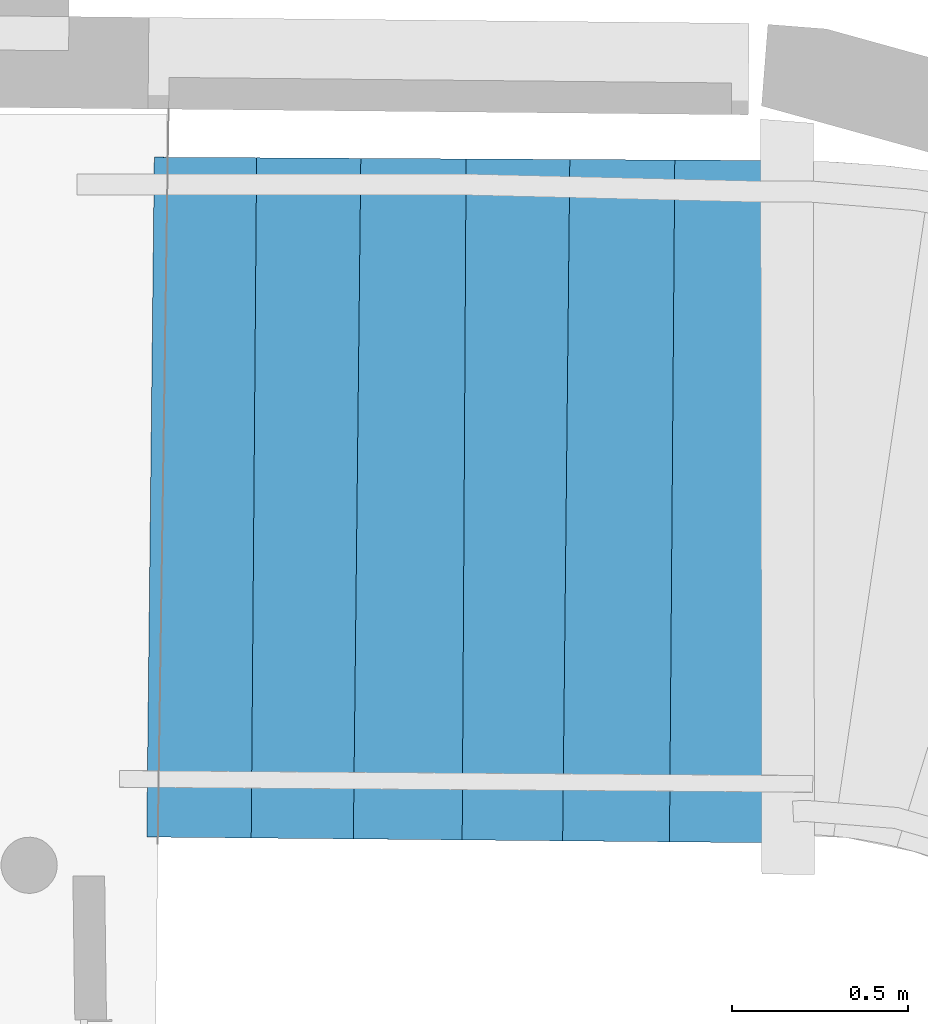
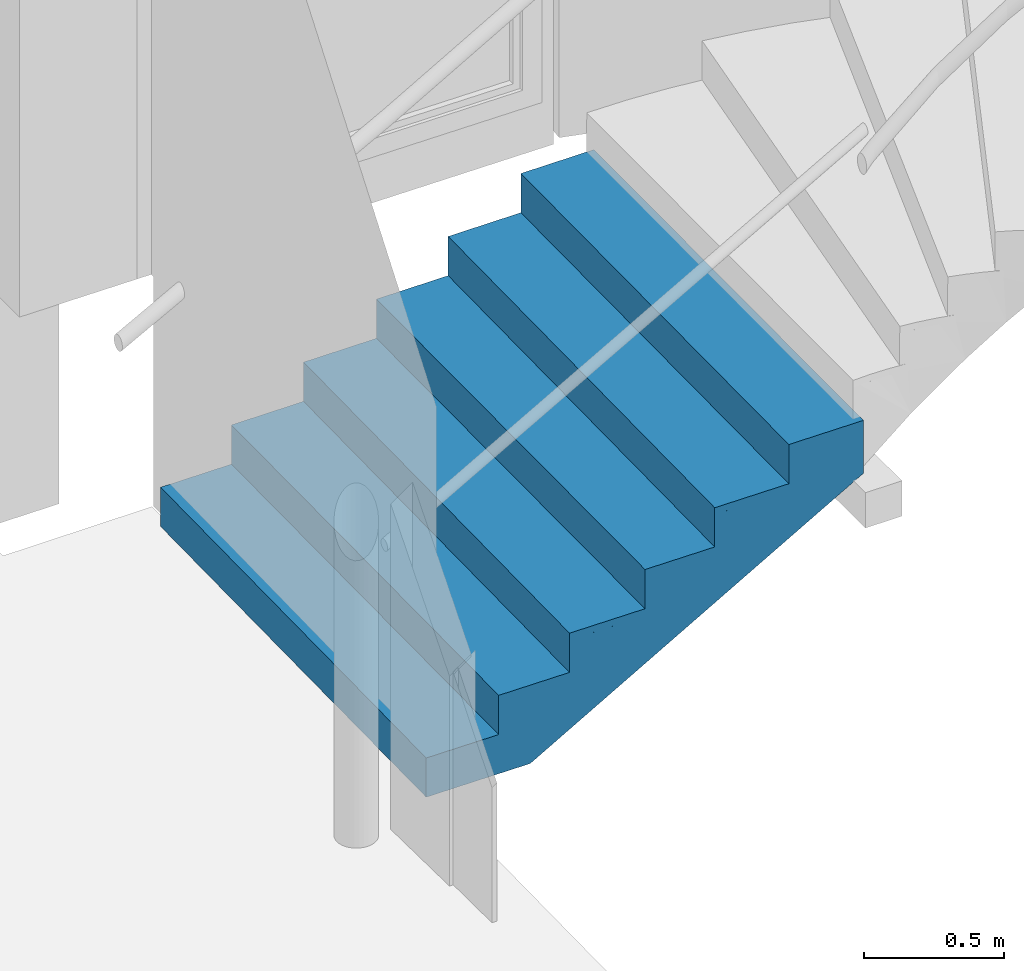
# One storey, part 77 of 97: 1 stair flight, 1 element without a shape of its own.
"""IFC2X3 building model written with IfcOpenShell, lengths in centimetres."""

from ifc_helpers import new_model, entity, si_unit, converted_unit, direction, frame, origin, origin_with_axes, place, context, subcontext, project, spatial, faceted_brep, material, material_list, element, aggregate, save


model = new_model("IFC2X3")

# Units and contexts
model_context = context("Model", 3, precision=0.0001, world=origin(), true_north=direction((0.225632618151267, 0.974212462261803, 0.0)))
body_context = subcontext(model_context, "Body", "Model", "MODEL_VIEW")
ifc_project = project(units=[si_unit("LENGTHUNIT", "METRE", prefix="CENTI"), si_unit("AREAUNIT", "SQUARE_METRE", prefix="CENTI"), si_unit("VOLUMEUNIT", "CUBIC_METRE", prefix="CENTI"), converted_unit("PLANEANGLEUNIT", "DEGREE", entity("IfcRatioMeasure", 0.0174532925), si_unit("PLANEANGLEUNIT", "RADIAN"), dimensions=[0, 0, 0, 0, 0, 0, 0])], contexts=[model_context])

# Site, building, storey
site_placement = place(None, origin_with_axes())
site = spatial("IfcSite", under=ifc_project, at=site_placement, Name="Default Site", CompositionType="ELEMENT")
building_placement = place(site_placement, origin_with_axes())
building = spatial("IfcBuilding", under=site, at=building_placement, Name="Default Building", CompositionType="ELEMENT")
storey_placement = place(building_placement, origin_with_axes())
storey = spatial("IfcBuildingStorey", under=building, at=storey_placement, Name="Rez-de-chaussée", CompositionType="ELEMENT", Elevation=0.0)

# Stair, stair flight
stair_placement = place(storey_placement, frame((1122.40148576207, -332.078331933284, 0.0), z_axis=(0.0, 0.0, 1.0), x_axis=(1.0, 0.0, 0.0)))
stair = element("IfcStair", 1, at=stair_placement, inside=storey, Name="Escalier 718692", ShapeType="NOTDEFINED")
ifc_material_1 = material(Name="Blanc")
ifc_material_2 = material(Name="Carreau décoré (85)")
ifc_material_list = material_list([ifc_material_1, ifc_material_2])
stair_flight_placement = place(stair_placement, frame((1.07416121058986, 96.5940179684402, 14.0641197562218), z_axis=(0.0, 0.0, 1.0), x_axis=(0.999938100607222, -0.0111263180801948, 0.0)))
stair_flight = element("IfcStairFlight", 2, at=stair_flight_placement, material=ifc_material_list, Name="4294967289", context=body_context, shape_type="Brep", body=[
    faceted_brep([(-2.99996825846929, 0.0, -14.0641197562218), (0.0, 0.0, -14.0641197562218), (0.0012625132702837, -193.199992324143, -14.0641197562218), (-2.99870574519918, -193.199992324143, -14.0641197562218), (0.0, 0.0, -2.77555756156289e-15), (-2.99996825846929, 0.0, -2.77555756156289e-15), (-2.99870574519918, -193.199992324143, -2.77555756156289e-15), (0.0012625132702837, -193.199992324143, -2.77555756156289e-15), (-2.99870573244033, -193.199992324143, -14.0641197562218), (-2.99996827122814, -8.33767412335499e-14, -2.77555756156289e-15), (-2.99996825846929, -1.18882677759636e-09, -14.0641197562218), (-4.71108020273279e-19, 1.18882677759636e-09, -2.77555756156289e-15), (-1.27586768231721e-08, -8.33755808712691e-14, -14.0641197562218), (0.00126252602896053, -193.199992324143, -2.77555756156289e-15), (0.0012625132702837, -193.199992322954, -14.0641197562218), (-2.99870574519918, -193.199992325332, -2.77555756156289e-15)], [[[0, 1, 2]], [[2, 3, 0]], [[4, 5, 6]], [[6, 7, 4]], [[5, 0, 8]], [[3, 6, 9]], [[4, 1, 10]], [[0, 5, 11]], [[7, 2, 12]], [[1, 4, 13]], [[6, 3, 14]], [[2, 7, 15]]]),
    faceted_brep([(26.0697969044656, 0.156746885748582, 3.00000011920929), (29.0697541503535, 0.166307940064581, 3.00000011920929), (29.6855947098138, -193.144417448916, 3.00000011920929), (26.6856377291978, -193.154002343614, 3.00000011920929), (29.0697541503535, 0.166307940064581, 17.0641198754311), (26.0697969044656, 0.156746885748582, 17.0641198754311), (26.6856377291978, -193.154002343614, 17.0641198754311), (29.6855947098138, -193.144417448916, 17.0641198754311), (26.6856377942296, -193.154002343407, 3.00000011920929), (26.0697968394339, 0.156746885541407, 17.0641198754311), (26.0697969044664, 0.156746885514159, 3.00000011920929), (29.0697541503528, 0.166307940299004, 17.0641198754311), (29.0697540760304, 0.166307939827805, 3.00000011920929), (29.6855947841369, -193.144417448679, 17.0641198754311), (29.6855947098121, -193.144417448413, 3.00000011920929), (26.6856377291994, -193.154002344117, 17.0641198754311)], [[[0, 1, 2]], [[2, 3, 0]], [[4, 5, 6]], [[6, 7, 4]], [[5, 0, 8]], [[3, 6, 9]], [[4, 1, 10]], [[0, 5, 11]], [[7, 2, 12]], [[1, 4, 13]], [[6, 3, 14]], [[2, 7, 15]]]),
    faceted_brep([(55.6793244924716, 0.335188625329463, 20.0641199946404), (58.6792871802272, 0.335689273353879, 20.0641199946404), (58.7120557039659, -193.09010650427, 20.0641199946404), (55.7120932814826, -193.090630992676, 20.0641199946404), (58.6792871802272, 0.335689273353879, 34.1282412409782), (55.6793244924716, 0.335188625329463, 34.1282412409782), (55.7120932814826, -193.090630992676, 34.1282412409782), (58.7120557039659, -193.09010650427, 34.1282412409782), (55.7120932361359, -193.090630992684, 20.0641199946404), (55.6793245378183, 0.335188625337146, 34.1282412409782), (55.6793244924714, 0.335188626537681, 20.0641199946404), (58.6792871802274, 0.33568927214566, 34.1282412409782), (58.6792871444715, 0.335689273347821, 20.0641199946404), (58.7120557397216, -193.090106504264, 34.1282412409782), (58.7120557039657, -193.090106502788, 20.0641199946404), (55.7120932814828, -193.090630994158, 34.1282412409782)], [[[0, 1, 2]], [[2, 3, 0]], [[4, 5, 6]], [[6, 7, 4]], [[5, 0, 8]], [[3, 6, 9]], [[4, 1, 10]], [[0, 5, 11]], [[7, 2, 12]], [[1, 4, 13]], [[6, 3, 14]], [[2, 7, 15]]]),
    faceted_brep([(85.5990691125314, 0.490830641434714, 37.1282413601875), (88.5989544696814, 0.50685243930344, 37.1282413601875), (89.6328774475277, -193.032218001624, 37.1282413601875), (86.632897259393, -193.048288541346, 37.1282413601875), (88.5989544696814, 0.50685243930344, 51.1923626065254), (85.5990691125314, 0.490830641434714, 51.1923626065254), (86.632897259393, -193.048288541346, 51.1923626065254), (89.6328774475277, -193.032218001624, 51.1923626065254), (86.6328972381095, -193.048288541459, 37.1282413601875), (85.5990691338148, 0.490830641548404, 51.1923626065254), (85.5990691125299, 0.490830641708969, 37.1282413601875), (88.5989544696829, 0.506852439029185, 51.1923626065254), (88.598954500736, 0.506852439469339, 37.1282413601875), (89.6328774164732, -193.03221800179, 51.1923626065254), (89.6328774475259, -193.032218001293, 37.1282413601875), (86.6328972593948, -193.048288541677, 51.1923626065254)], [[[0, 1, 2]], [[2, 3, 0]], [[4, 5, 6]], [[6, 7, 4]], [[5, 0, 8]], [[3, 6, 9]], [[4, 1, 10]], [[0, 5, 11]], [[7, 2, 12]], [[1, 4, 13]], [[6, 3, 14]], [[2, 7, 15]]]),
    faceted_brep([(115.071305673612, 0.673657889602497, 54.1923597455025), (118.071349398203, 0.675446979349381, 54.1923597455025), (118.187059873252, -192.978822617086, 54.1923597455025), (115.187111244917, -192.980586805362, 54.1923597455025), (118.071349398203, 0.675446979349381, 68.2564809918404), (115.071305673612, 0.673657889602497, 68.2564809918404), (115.187111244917, -192.980586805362, 68.2564809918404), (118.187059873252, -192.978822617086, 68.2564809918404), (115.187111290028, -192.980586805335, 54.1923597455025), (115.071305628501, 0.673657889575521, 68.2564809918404), (115.071305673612, 0.673657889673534, 54.1923597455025), (118.071349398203, 0.675446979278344, 68.2564809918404), (118.071349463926, 0.675446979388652, 54.1923597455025), (118.187059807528, -192.978822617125, 68.2564809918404), (118.187059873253, -192.978822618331, 54.1923597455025), (115.187111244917, -192.980586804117, 68.2564809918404)], [[[0, 1, 2]], [[2, 3, 0]], [[4, 5, 6]], [[6, 7, 4]], [[5, 0, 8]], [[3, 6, 9]], [[4, 1, 10]], [[0, 5, 11]], [[7, 2, 12]], [[1, 4, 13]], [[6, 3, 14]], [[2, 7, 15]]]),
    faceted_brep([(144.89731799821, 0.836101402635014, 71.2564781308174), (147.897270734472, 0.846067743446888, 71.2564781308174), (148.542424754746, -192.921980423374, 71.2564781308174), (145.542472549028, -192.93199444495, 71.2564781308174), (147.897270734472, 0.846067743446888, 85.3205993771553), (144.89731799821, 0.836101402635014, 85.3205993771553), (145.542472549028, -192.93199444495, 85.3205993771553), (148.542424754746, -192.921980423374, 85.3205993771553), (145.542472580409, -192.931994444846, 71.2564781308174), (144.897317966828, 0.836101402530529, 85.3205993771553), (144.89731799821, 0.836101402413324, 71.2564781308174), (147.897270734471, 0.846067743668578, 85.3205993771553), (147.897270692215, 0.846067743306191, 71.2564781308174), (148.542424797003, -192.921980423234, 85.3205993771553), (148.542424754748, -192.921980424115, 71.2564781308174), (145.542472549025, -192.93199444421, 85.3205993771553)], [[[0, 1, 2]], [[2, 3, 0]], [[4, 5, 6]], [[6, 7, 4]], [[5, 0, 8]], [[3, 6, 9]], [[4, 1, 10]], [[0, 5, 11]], [[7, 2, 12]], [[1, 4, 13]], [[6, 3, 14]], [[2, 7, 15]]]),
    faceted_brep([(0.0012625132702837, -193.199992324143, -14.0641197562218), (0.0012625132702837, -193.199992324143, -2.77555756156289e-15), (-1.27586768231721e-08, -8.33755808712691e-14, -2.77555756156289e-15), (0.0, 0.0, -2.77555756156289e-15), (0.0, 0.0, -14.0641197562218), (0.00126252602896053, -193.199992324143, -14.0641197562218), (29.6855947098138, -193.144417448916, -2.77555756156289e-15), (29.6855947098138, -193.144417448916, 17.0641198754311), (29.0697540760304, 0.166307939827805, 17.0641198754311), (29.0697541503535, 0.166307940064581, 17.0641198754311), (29.0697541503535, 0.166307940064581, -2.77555756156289e-15), (29.6855947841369, -193.144417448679, -2.77555756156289e-15), (58.7120557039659, -193.09010650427, 17.0641198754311), (58.7120557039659, -193.09010650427, 34.1282412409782), (58.6792871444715, 0.335689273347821, 34.1282412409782), (58.6792871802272, 0.335689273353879, 34.1282412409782), (58.6792871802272, 0.335689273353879, 17.0641198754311), (58.7120557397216, -193.090106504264, 17.0641198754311), (89.6328774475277, -193.032218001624, 34.1282412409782), (89.6328774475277, -193.032218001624, 51.1923626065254), (88.598954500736, 0.506852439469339, 51.1923626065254), (88.5989544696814, 0.50685243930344, 51.1923626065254), (88.5989544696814, 0.50685243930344, 34.1282412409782), (89.6328774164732, -193.03221800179, 34.1282412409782), (118.187059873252, -192.978822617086, 51.1923626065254), (118.187059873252, -192.978822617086, 68.2564809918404), (118.071349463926, 0.675446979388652, 68.2564809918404), (118.071349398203, 0.675446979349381, 68.2564809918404), (118.071349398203, 0.675446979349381, 51.1923626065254), (118.187059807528, -192.978822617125, 51.1923626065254), (148.542424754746, -192.921980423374, 68.2564809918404), (148.542424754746, -192.921980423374, 85.3205993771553), (147.897270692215, 0.846067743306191, 85.3205993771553), (147.897270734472, 0.846067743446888, 85.3205993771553), (147.897270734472, 0.846067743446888, 68.2564809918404), (148.542424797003, -192.921980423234, 68.2564809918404), (176.099404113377, -192.870429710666, 85.3205993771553), (174.934080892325, 1.00074687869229, 85.3205993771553), (176.099404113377, -192.870429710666, 65.2773395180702), (174.934080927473, 1.00074687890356, 65.2773395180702), (174.934080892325, 1.00074687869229, 65.2773395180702), (176.099404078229, -192.870429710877, 85.3205993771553), (39.371612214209, 0.225238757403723, -14.0641197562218), (39.634829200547, -193.125795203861, -14.0641197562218), (29.6855947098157, -193.144417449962, -2.51564333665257e-15), (0.00126251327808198, -193.199992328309, -14.0641197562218), (39.6348292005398, -193.12579519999, -14.0641197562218), (39.6348292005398, -193.12579519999, 17.0641198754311), (29.68559470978, -193.144417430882, -2.77555756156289e-15), (148.542424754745, -192.921980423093, 68.2564809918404), (176.099404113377, -192.870429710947, 85.3205993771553), (58.7120557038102, -193.09010642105, 17.0641198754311), (39.6348292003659, -193.125795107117, -14.0641197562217), (176.099404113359, -192.870429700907, 65.2773395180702), (89.6328774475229, -193.032217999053, 34.1282412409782), (176.099404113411, -192.870429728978, 65.2773395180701), (118.187059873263, -192.978822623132, 51.1923626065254), (176.099404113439, -192.870429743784, 65.2773395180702), (176.099404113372, -192.870429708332, 65.2773395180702), (148.542424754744, -192.921980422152, 68.2564809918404), (118.187059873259, -192.978822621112, 51.1923626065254), (89.6328774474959, -193.032217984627, 34.1282412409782), (39.634829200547, -193.125795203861, 17.0641198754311), (58.7120557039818, -193.090106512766, 17.0641198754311), (39.3716122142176, 0.225238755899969, -14.0641197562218), (-1.0279945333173e-11, 1.79688044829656e-09, -3.55094149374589e-15), (29.0697541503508, 0.166307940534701, -2.97842242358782e-15), (29.0697541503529, 0.16630794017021, -2.77555756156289e-15), (39.371612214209, 0.225238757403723, 17.0641198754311), (29.0697541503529, 0.16630794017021, -2.775557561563e-15), (29.0697541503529, 0.16630794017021, 17.0641198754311), (58.6792871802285, 0.335689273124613, 17.0641198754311), (174.934080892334, 1.00074687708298, 65.2773395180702), (39.3716122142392, 0.225238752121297, -14.0641197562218), (39.3716122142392, 0.225238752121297, 17.0641198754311), (58.6792871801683, 0.335689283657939, 17.0641198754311), (88.5989544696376, 0.506852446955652, 34.1282412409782), (58.6792871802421, 0.335689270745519, 17.0641198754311), (58.6792871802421, 0.335689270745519, 34.1282412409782), (88.598954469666, 0.506852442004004, 34.1282412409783), (118.071349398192, 0.675446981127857, 51.1923626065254), (88.5989544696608, 0.506852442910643, 34.1282412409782), (88.5989544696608, 0.506852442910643, 51.1923626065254), (118.071349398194, 0.675446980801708, 51.1923626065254), (118.071349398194, 0.675446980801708, 68.2564809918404), (118.071349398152, 0.675446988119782, 68.2564809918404), (147.897270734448, 0.846067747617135, 68.2564809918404), (147.897270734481, 0.846067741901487, 68.2564809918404), (147.897270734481, 0.846067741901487, 85.3205993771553), (176.099403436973, -192.870429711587, 65.277340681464), (39.634829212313, -193.125795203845, -14.064119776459), (176.099404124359, -192.8704297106, 65.2773394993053), (39.3716128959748, 0.22523876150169, -14.064120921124)], [[[0, 1, 2]], [[3, 4, 5]], [[6, 7, 8]], [[9, 10, 11]], [[12, 13, 14]], [[15, 16, 17]], [[18, 19, 20]], [[21, 22, 23]], [[24, 25, 26]], [[27, 28, 29]], [[30, 31, 32]], [[33, 34, 35]], [[3, 1, 6]], [[6, 10, 3]], [[9, 7, 12]], [[12, 16, 9]], [[15, 13, 18]], [[18, 22, 15]], [[21, 19, 24]], [[24, 28, 21]], [[27, 25, 30]], [[30, 34, 27]], [[31, 36, 37]], [[37, 33, 31]], [[36, 38, 39]], [[40, 37, 41]], [[4, 42, 43]], [[43, 0, 4]], [[43, 44, 45]], [[6, 46, 47]], [[6, 47, 7]], [[1, 0, 48]], [[36, 49, 38]], [[30, 50, 31]], [[38, 51, 52]], [[12, 53, 54]], [[18, 55, 56]], [[24, 57, 25]], [[25, 58, 59]], [[19, 18, 60]], [[13, 12, 61]], [[62, 43, 63]], [[3, 64, 4]], [[42, 65, 66]], [[42, 67, 68]], [[68, 69, 70]], [[42, 71, 72]], [[16, 73, 74]], [[40, 75, 76]], [[22, 77, 78]], [[40, 79, 80]], [[28, 81, 82]], [[40, 83, 84]], [[40, 85, 86]], [[40, 87, 37]], [[37, 87, 88]], [[42, 89, 90]], [[40, 91, 92]]]),
    faceted_brep([(-2.99996825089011, -0.0171433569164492, 3.00000011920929), (-2.99873850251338, -193.20561971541, 3.00000011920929), (29.6855947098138, -193.144417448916, 3.00000011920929), (29.0697541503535, 0.166307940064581, 3.00000011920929), (29.6855947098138, -193.144417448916, -2.77555756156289e-15), (-2.99873850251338, -193.20561971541, -2.77555756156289e-15), (-2.99996825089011, -0.0171433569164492, -2.77555756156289e-15), (29.0697541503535, 0.166307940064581, -2.77555756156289e-15), (-2.99996820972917, -0.0171433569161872, 3.00000011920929), (-2.99873854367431, -193.205619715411, -2.77555756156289e-15), (-2.99873850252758, -193.205619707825, 3.00000011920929), (29.685594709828, -193.144417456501, -2.77555756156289e-15), (29.6855947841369, -193.144417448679, 3.00000011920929), (29.0697540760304, 0.166307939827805, -2.77555756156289e-15), (29.0697541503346, 0.166307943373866, 3.00000011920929), (-2.99996825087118, -0.0171433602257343, -2.77555756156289e-15)], [[[0, 1, 2]], [[2, 3, 0]], [[4, 5, 6]], [[6, 7, 4]], [[5, 1, 8]], [[0, 6, 9]], [[4, 2, 10]], [[1, 5, 11]], [[7, 3, 12]], [[2, 4, 13]], [[6, 0, 14]], [[3, 7, 15]]]),
    faceted_brep([(26.0697969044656, 0.156746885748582, 20.0641199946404), (26.6856377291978, -193.154002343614, 20.0641199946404), (58.7120557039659, -193.09010650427, 20.0641199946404), (58.6792871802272, 0.335689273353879, 20.0641199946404), (58.7120557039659, -193.09010650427, 17.0641198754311), (26.6856377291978, -193.154002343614, 17.0641198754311), (26.0697969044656, 0.156746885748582, 17.0641198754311), (58.6792871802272, 0.335689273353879, 17.0641198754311), (26.0697968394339, 0.156746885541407, 20.0641199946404), (26.6856377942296, -193.154002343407, 17.0641198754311), (26.6856377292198, -193.154002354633, 20.0641199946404), (58.712055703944, -193.090106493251, 17.0641198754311), (58.7120557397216, -193.090106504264, 20.0641199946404), (58.6792871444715, 0.335689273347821, 17.0641198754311), (58.6792871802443, 0.335689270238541, 20.0641199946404), (26.0697969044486, 0.15674688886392, 17.0641198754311)], [[[0, 1, 2]], [[2, 3, 0]], [[4, 5, 6]], [[6, 7, 4]], [[5, 1, 8]], [[0, 6, 9]], [[4, 2, 10]], [[1, 5, 11]], [[7, 3, 12]], [[2, 4, 13]], [[6, 0, 14]], [[3, 7, 15]]]),
    faceted_brep([(55.679319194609, 0.318522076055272, 37.1282413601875), (55.7120932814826, -193.090630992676, 37.1282413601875), (89.6328774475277, -193.032218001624, 37.1282413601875), (88.5989544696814, 0.50685243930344, 37.1282413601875), (89.6328774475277, -193.032218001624, 34.1282412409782), (55.7120932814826, -193.090630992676, 34.1282412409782), (55.679319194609, 0.318522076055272, 34.1282412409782), (88.5989544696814, 0.50685243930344, 34.1282412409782), (55.6793192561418, 0.318522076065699, 37.1282413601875), (55.7120932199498, -193.090630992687, 34.1282412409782), (55.7120932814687, -193.090630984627, 37.1282413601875), (89.6328774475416, -193.032218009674, 34.1282412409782), (89.6328774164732, -193.03221800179, 37.1282413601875), (88.598954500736, 0.506852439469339, 34.1282412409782), (88.5989544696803, 0.506852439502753, 37.1282413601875), (55.6793191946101, 0.318522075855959, 34.1282412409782)], [[[0, 1, 2]], [[2, 3, 0]], [[4, 5, 6]], [[6, 7, 4]], [[5, 1, 8]], [[0, 6, 9]], [[4, 2, 10]], [[1, 5, 11]], [[7, 3, 12]], [[2, 4, 13]], [[6, 0, 14]], [[3, 7, 15]]]),
    faceted_brep([(85.5990691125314, 0.490830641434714, 54.1923597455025), (86.6328764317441, -193.037845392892, 54.1923597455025), (118.187059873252, -192.978822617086, 54.1923597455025), (118.071349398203, 0.675446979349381, 54.1923597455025), (118.187059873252, -192.978822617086, 51.1923626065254), (86.6328764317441, -193.037845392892, 51.1923626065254), (85.5990691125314, 0.490830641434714, 51.1923626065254), (118.071349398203, 0.675446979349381, 51.1923626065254), (85.5990691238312, 0.490830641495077, 54.1923597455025), (86.6328764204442, -193.037845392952, 51.1923626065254), (86.6328764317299, -193.037845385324, 54.1923597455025), (118.187059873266, -192.978822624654, 51.1923626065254), (118.187059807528, -192.978822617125, 54.1923597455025), (118.071349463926, 0.675446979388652, 51.1923626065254), (118.071349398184, 0.675446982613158, 54.1923597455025), (85.5990691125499, 0.490830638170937, 51.1923626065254)], [[[0, 1, 2]], [[2, 3, 0]], [[4, 5, 6]], [[6, 7, 4]], [[5, 1, 8]], [[0, 6, 9]], [[4, 2, 10]], [[1, 5, 11]], [[7, 3, 12]], [[2, 4, 13]], [[6, 0, 14]], [[3, 7, 15]]]),
    faceted_brep([(115.071381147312, 0.658303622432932, 71.2564781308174), (115.187111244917, -192.980586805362, 71.2564781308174), (148.542424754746, -192.921980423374, 71.2564781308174), (147.897270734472, 0.846067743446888, 71.2564781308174), (148.542424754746, -192.921980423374, 68.2564809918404), (115.187111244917, -192.980586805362, 68.2564809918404), (115.071381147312, 0.658303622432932, 68.2564809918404), (147.897270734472, 0.846067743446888, 68.2564809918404), (115.071381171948, 0.658303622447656, 71.2564781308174), (115.187111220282, -192.980586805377, 68.2564809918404), (115.187111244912, -192.980586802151, 71.2564781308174), (148.542424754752, -192.921980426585, 68.2564809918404), (148.542424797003, -192.921980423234, 71.2564781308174), (147.897270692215, 0.846067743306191, 68.2564809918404), (147.897270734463, 0.846067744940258, 71.2564781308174), (115.071381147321, 0.658303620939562, 68.2564809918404)], [[[0, 1, 2]], [[2, 3, 0]], [[4, 5, 6]], [[6, 7, 4]], [[5, 1, 8]], [[0, 6, 9]], [[4, 2, 10]], [[1, 5, 11]], [[7, 3, 12]], [[2, 4, 13]], [[6, 0, 14]], [[3, 7, 15]]]),
    faceted_brep([(145.542472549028, -192.93199444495, 88.3206024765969), (176.099404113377, -192.870429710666, 88.3206024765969), (174.934080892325, 1.00074687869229, 88.3206024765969), (144.89731799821, 0.836101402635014, 88.3206024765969), (174.934080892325, 1.00074687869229, 85.3205993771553), (176.099404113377, -192.870429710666, 85.3205993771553), (145.542472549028, -192.93199444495, 85.3205993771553), (144.89731799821, 0.836101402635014, 85.3205993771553), (144.897317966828, 0.836101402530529, 88.3206024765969), (145.542472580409, -192.931994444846, 85.3205993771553), (145.54247254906, -192.931994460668, 88.3206024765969), (176.099404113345, -192.870429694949, 85.3205993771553), (176.099404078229, -192.870429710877, 88.3206024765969), (174.934080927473, 1.00074687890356, 85.3205993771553), (174.934080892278, 1.00074688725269, 88.3206024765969), (144.897317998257, 0.836101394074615, 85.3205993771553)], [[[0, 1, 2]], [[2, 3, 0]], [[4, 5, 6]], [[6, 7, 4]], [[6, 0, 8]], [[3, 7, 9]], [[5, 1, 10]], [[0, 6, 11]], [[4, 2, 12]], [[1, 5, 13]], [[7, 3, 14]], [[2, 4, 15]]]),
])
aggregate(stair, [stair_flight])

save(model, "model.ifc")
